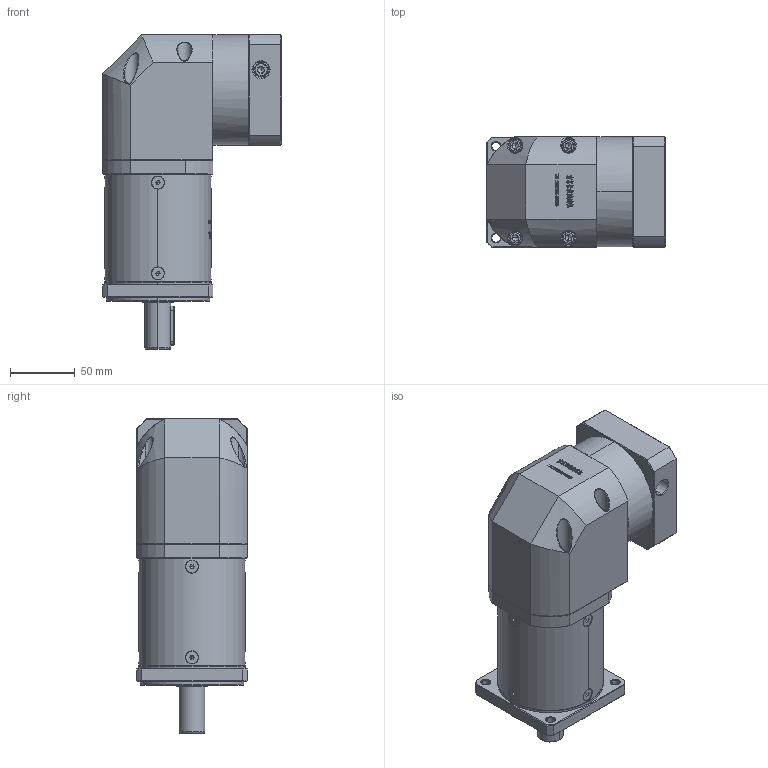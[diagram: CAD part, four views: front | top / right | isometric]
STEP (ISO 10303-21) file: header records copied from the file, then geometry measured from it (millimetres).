
FILE_DESCRIPTION (( 'STEP AP214' ), '1' );
FILE_NAME ('ZF80-D20-L3-14-73-69.6X69.6-M6.step', '2022-05-08T11:58:13', ( '' ), ( 'Microsoft' ), 'SwSTEP 2.0', 'SolidWorks 2016', '' );
FILE_SCHEMA (( 'AUTOMOTIVE_DESIGN' ));
Length unit declared in the file: millimetre
Products named in the file (1): ZF80-D20-L3-14-73-69.6X69.6-M6
Bounding box: 137.6 x 85 x 242.5 mm (x, y, z)
Volume: 1458838.4 mm3; surface area: 145402.1 mm2
Topology: 13 solids, 13 shells, 3059 faces, 8025 edges, 5114 vertices
Faces by surface type: plane 1619, bspline 624, cylinder 443, cone 359, torus 14
Entity records: 164810 total; most frequent: CARTESIAN_POINT 61531, ORIENTED_EDGE 15958, DIRECTION 12000, EDGE_CURVE 7979, VERTEX_POINT 5114, VECTOR 4970, LINE 4970, AXIS2_PLACEMENT_3D 3515
